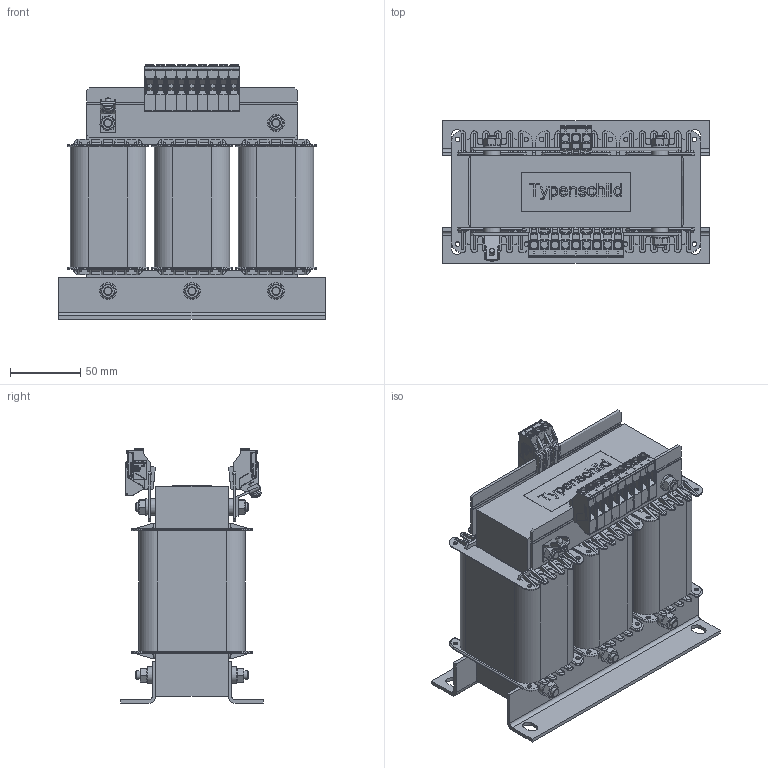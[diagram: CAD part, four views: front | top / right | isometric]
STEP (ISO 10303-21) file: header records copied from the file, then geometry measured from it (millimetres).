
FILE_DESCRIPTION(/* description */ (''),/* implementation_level */ '2;1');
FILE_NAME(/* name */ 'DTZ0,63 18,5-230.stp',/* time_stamp */ '2023-10-05T09:08:53+02:00',/* author */ ('CERNY'),/* organization */ (''),/* preprocessor_version */ 'ST-DEVELOPER v19.2',/* originating_system */ 'Autodesk Inventor 2023',/* authorisation */ '');
FILE_SCHEMA (('AUTOMOTIVE_DESIGN { 1 0 10303 214 3 1 1 }'));
Products named in the file (1): X0001 DTZ 017
Bounding box: 190 x 101.5 x 181.5 mm (x, y, z)
Volume: 1613168.9 mm3; surface area: 311133.3 mm2
Topology: 4 solids, 4 shells, 9578 faces, 26153 edges, 16626 vertices
Faces by surface type: plane 6675, cylinder 1824, bspline 552, torus 485, cone 41, sphere 1
Full cylindrical faces by diameter (mm): 3.2 x24, 4 x1, 5 x1, 6 x10, 8.5 x1, 12 x13
Entity records: 323528 total; most frequent: CARTESIAN_POINT 71715, ORIENTED_EDGE 52208, DIRECTION 48208, EDGE_CURVE 26104, LINE 20590, VECTOR 20590, VERTEX_POINT 16626, AXIS2_PLACEMENT_3D 13809
